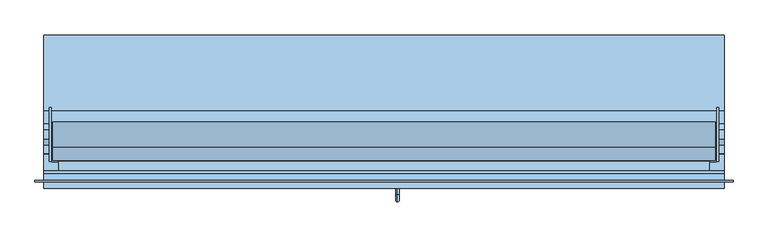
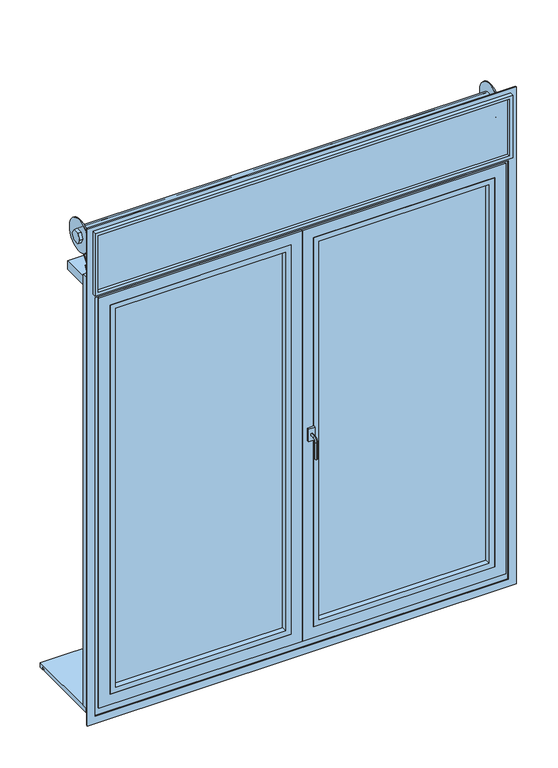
"""IFC4 building model written with IfcOpenShell, lengths in millimetres: window geometry, Ventana monoblock practicable, 2 hojas sin cajon para poner emparchado : CA-01. SALÓN."""

from ifc_helpers import new_model, si_unit, point, frame, frame_2d, origin, place, context, project, spatial, polyline, circle_curve, ellipse_curve, trimmed, segment, composite_curve, outline, extrude, faceted_brep, source, transform, mapped, element, save
from ifc_brep_helpers import plane_surface, cylinder_surface, revolved_surface, advanced_brep


def window_ea0ccc3b(model_context):
    return source(origin(), model_context, "Body", "SolidModel", [
        extrude(outline(polyline([(930.0, -120.0), (930.0, -135.0), (-930.0, -135.0), (-930.0, -120.0), (930.0, -120.0)])), frame((0.0, 0.0, 2945.0), z_axis=(0.0, 0.0, 1.0), x_axis=(1.0, 0.0, 0.0)), (0.0, 0.0, 1.0), 270.0),
        faceted_brep([(-945.0, -110.0, 3230.0), (-945.0, -150.0, 3230.0), (945.0, -150.0, 3230.0), (945.0, -110.0, 3230.0), (-915.0, -120.0, 3200.0), (-915.0, -110.0, 3200.0), (915.0, -110.0, 3200.0), (915.0, -120.0, 3200.0), (-930.0, -150.0, 3215.0), (-930.0, -120.0, 3215.0), (930.0, -120.0, 3215.0), (930.0, -150.0, 3215.0), (945.0, -150.0, 2930.0), (945.0, -110.0, 2930.0), (915.0, -110.0, 2960.0), (915.0, -120.0, 2960.0), (930.0, -120.0, 2945.0), (930.0, -150.0, 2945.0), (-945.0, -150.0, 2930.0), (-945.0, -110.0, 2930.0), (-915.0, -110.0, 2960.0), (-915.0, -120.0, 2960.0), (-930.0, -120.0, 2945.0), (-930.0, -150.0, 2945.0)], [[[0, 1, 2, 3]], [[4, 5, 6, 7]], [[8, 9, 10, 11]], [[3, 2, 12, 13]], [[7, 6, 14, 15]], [[11, 10, 16, 17]], [[13, 12, 18, 19]], [[15, 14, 20, 21]], [[17, 16, 22, 23]], [[19, 18, 1, 0]], [[3, 13, 19, 0], [5, 20, 14, 6]], [[21, 20, 5, 4]], [[9, 22, 16, 10], [7, 15, 21, 4]], [[23, 22, 9, 8]], [[1, 18, 12, 2], [11, 17, 23, 8]]]),
        advanced_brep(
        [(-945.0, -28.8675135, 3125.0), (-945.0, -14.4337567, 3150.0), (-945.0, 14.4337567, 3150.0), (-945.0, 28.8675135, 3125.0), (-945.0, 14.4337567, 3100.0), (-945.0, -14.4337567, 3100.0), (945.0, -28.8675135, 3125.0), (945.0, -14.4337567, 3100.0), (945.0, 14.4337567, 3100.0), (945.0, 28.8675135, 3125.0), (945.0, 14.4337567, 3150.0), (945.0, -14.4337567, 3150.0), (-930.0, -28.8675135, 3125.0), (-930.0, -14.4337567, 3150.0), (930.0, -14.4337567, 3150.0), (930.0, -28.8675135, 3125.0), (925.0, -28.8675135, 3125.0), (925.0, -14.4337567, 3150.0), (-925.0, -14.4337567, 3150.0), (-925.0, -28.8675135, 3125.0), (-930.0, 14.4337567, 3150.0), (930.0, 14.4337567, 3150.0), (925.0, 14.4337567, 3150.0), (-925.0, 14.4337567, 3150.0), (-930.0, 28.8675135, 3125.0), (930.0, 28.8675135, 3125.0), (925.0, 28.8675135, 3125.0), (-925.0, 28.8675135, 3125.0), (-930.0, 14.4337567, 3100.0), (930.0, 14.4337567, 3100.0), (925.0, 14.4337567, 3100.0), (-925.0, 14.4337567, 3100.0), (-930.0, -14.4337567, 3100.0), (930.0, -14.4337567, 3100.0), (925.0, -14.4337567, 3100.0), (-925.0, -14.4337567, 3100.0), (925.0, -75.0, 3125.0), (925.0, 75.0, 3125.0), (930.0, -75.0, 3125.0), (930.0, 75.0, 3125.0), (-930.0, -75.0, 3125.0), (-930.0, 75.0, 3125.0), (-925.0, -75.0, 3125.0), (-925.0, 75.0, 3125.0)],
        [
            (0, 1),
            (1, 2),
            (2, 3),
            (3, 4),
            (4, 5),
            (5, 0),
            (6, 7),
            (7, 8),
            (8, 9),
            (9, 10),
            (10, 11),
            (11, 6),
            (0, 12),
            (12, 13),
            (13, 1),
            (11, 14),
            (14, 15),
            (15, 6),
            (16, 17),
            (17, 18),
            (18, 19),
            (19, 16),
            (13, 20),
            (20, 2),
            (10, 21),
            (21, 14),
            (17, 22),
            (22, 23),
            (23, 18),
            (20, 24),
            (24, 3),
            (9, 25),
            (25, 21),
            (22, 26),
            (26, 27),
            (27, 23),
            (24, 28),
            (28, 4),
            (8, 29),
            (29, 25),
            (26, 30),
            (30, 31),
            (31, 27),
            (28, 32),
            (32, 5),
            (7, 33),
            (33, 29),
            (30, 34),
            (34, 35),
            (35, 31),
            (32, 12),
            (15, 33),
            (34, 16),
            (19, 35),
            (36, 37, circle_curve(frame((925.0, 0.0, 3125.0), z_axis=(-1.0, 0.0, 0.0), x_axis=(0.0, 1.0, 0.0)), 75.0)),
            (37, 36, circle_curve(frame((925.0, 0.0, 3125.0), z_axis=(-1.0, 0.0, 0.0), x_axis=(0.0, 1.0, 0.0)), 75.0)),
            (38, 39, circle_curve(frame((930.0, 0.0, 3125.0), z_axis=(1.0, 0.0, 0.0), x_axis=(0.0, 1.0, 0.0)), 75.0)),
            (39, 38, circle_curve(frame((930.0, 0.0, 3125.0), z_axis=(1.0, 0.0, 0.0), x_axis=(0.0, 1.0, 0.0)), 75.0)),
            (37, 39),
            (38, 36),
            (40, 41, circle_curve(frame((-930.0, 0.0, 3125.0), z_axis=(-1.0, 0.0, 0.0), x_axis=(0.0, 1.0, 0.0)), 75.0)),
            (41, 40, circle_curve(frame((-930.0, 0.0, 3125.0), z_axis=(-1.0, 0.0, 0.0), x_axis=(0.0, 1.0, 0.0)), 75.0)),
            (42, 43, circle_curve(frame((-925.0, 0.0, 3125.0), z_axis=(1.0, 0.0, 0.0), x_axis=(0.0, 1.0, 0.0)), 75.0)),
            (43, 42, circle_curve(frame((-925.0, 0.0, 3125.0), z_axis=(1.0, 0.0, 0.0), x_axis=(0.0, 1.0, 0.0)), 75.0)),
            (41, 43),
            (42, 40),
        ],
        [
            plane_surface(frame((-945.0, -28.8675135, 3125.0), z_axis=(-1.0, 0.0, 0.0), x_axis=(0.0, 0.49999999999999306, 0.8660254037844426))),
            plane_surface(frame((945.0, -28.8675135, 3125.0), z_axis=(1.0, 0.0, 0.0), x_axis=(0.0, -0.49999999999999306, -0.8660254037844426))),
            plane_surface(frame((-945.0, -28.8675135, 3125.0), z_axis=(0.0, -0.8660254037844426, 0.49999999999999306), x_axis=(1.0, 0.0, 0.0))),
            plane_surface(frame((-945.0, -14.4337567, 3150.0), z_axis=(0.0, 0.0, 1.0), x_axis=(1.0, 0.0, 0.0))),
            plane_surface(frame((-945.0, 14.4337567, 3150.0), z_axis=(0.0, 0.8660254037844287, 0.5000000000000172), x_axis=(1.0, 0.0, 0.0))),
            plane_surface(frame((-945.0, 28.8675135, 3125.0), z_axis=(0.0, 0.8660254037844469, -0.49999999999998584), x_axis=(1.0, 0.0, 0.0))),
            plane_surface(frame((-945.0, 14.4337567, 3100.0), z_axis=(0.0, 0.0, -1.0), x_axis=(1.0, 0.0, 0.0))),
            plane_surface(frame((-945.0, -14.4337567, 3100.0), z_axis=(0.0, -0.8660254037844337, -0.5000000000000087), x_axis=(1.0, 0.0, 0.0))),
            plane_surface(frame((925.0, 75.0, 3125.0), z_axis=(-1.0, 0.0, 0.0), x_axis=(0.0, 0.0, -1.0))),
            plane_surface(frame((930.0, 75.0, 3125.0), z_axis=(1.0, 0.0, 0.0), x_axis=(0.0, 0.0, 1.0))),
            cylinder_surface(frame((925.0, 0.0, 3125.0), z_axis=(1.0, 0.0, 0.0), x_axis=(0.0, 1.0, 0.0)), 75.0),
            plane_surface(frame((-930.0, 75.0, 3125.0), z_axis=(-1.0, 0.0, 0.0), x_axis=(0.0, 0.0, -1.0))),
            plane_surface(frame((-925.0, 75.0, 3125.0), z_axis=(1.0, 0.0, 0.0), x_axis=(0.0, 0.0, 1.0))),
            cylinder_surface(frame((-930.0, 0.0, 3125.0), z_axis=(1.0, 0.0, 0.0), x_axis=(0.0, 1.0, 0.0)), 75.0),
        ],
        [
            (0, [[1, 2, 3, 4, 5, 6]]),
            (1, [[7, 8, 9, 10, 11, 12]]),
            (2, [[-1, 13, 14, 15]]),
            (2, [[-12, 16, 17, 18]]),
            (2, [[19, 20, 21, 22]]),
            (3, [[-2, -15, 23, 24]]),
            (3, [[-11, 25, 26, -16]]),
            (3, [[27, 28, 29, -20]]),
            (4, [[-3, -24, 30, 31]]),
            (4, [[-10, 32, 33, -25]]),
            (4, [[34, 35, 36, -28]]),
            (5, [[-4, -31, 37, 38]]),
            (5, [[-9, 39, 40, -32]]),
            (5, [[41, 42, 43, -35]]),
            (6, [[-5, -38, 44, 45]]),
            (6, [[-8, 46, 47, -39]]),
            (6, [[48, 49, 50, -42]]),
            (7, [[-6, -45, 51, -13]]),
            (7, [[-7, -18, 52, -46]]),
            (7, [[53, -22, 54, -49]]),
            (8, [[55, 56], [-19, -53, -48, -41, -34, -27]]),
            (9, [[57, 58], [-17, -26, -33, -40, -47, -52]]),
            (10, [[-56, 59, -57, 60]]),
            (10, [[-55, -60, -58, -59]]),
            (11, [[61, 62], [-14, -51, -44, -37, -30, -23]]),
            (12, [[63, 64], [-21, -29, -36, -43, -50, -54]]),
            (13, [[-62, 65, -63, 66]]),
            (13, [[-61, -66, -64, -65]]),
        ],
    ),
        extrude(outline(composite_curve([segment(trimmed(circle_curve(frame_2d((0.0, 3125.0)), 29.0), [point((22.8709706, 3107.1697251))], [point((0.0, 3096.0))], True, "CARTESIAN"), True, "CONTINUOUS"), segment(polyline([(0.0, 3096.0), (0.0, 3090.0)]), True, "CONTINUOUS"), segment(trimmed(circle_curve(frame_2d((0.0, 3125.0)), 35.0), [point((0.0, 3090.0))], [point((27.6028956, 3103.4807027))], False, "CARTESIAN"), True, "CONTINUOUS"), segment(polyline([(27.6028956, 3103.4807027), (-66.0, 2983.4158643), (-66.0, 2630.0), (-72.0, 2630.0), (-72.0, 2985.4783214), (22.8709706, 3107.1697251)]), True, "CONTINUOUS")], self_intersect=False)), frame((-920.0, 0.0, 0.0), z_axis=(1.0, 0.0, 0.0), x_axis=(0.0, 1.0, 0.0)), (0.0, 0.0, 1.0), 1840.0),
        extrude(outline(polyline([(-945.0, -52.0), (-945.0, 65.0), (945.0, 65.0), (945.0, -52.0), (-945.0, -52.0)])), frame((0.0, 0.0, 2930.0), z_axis=(0.0, 0.0, 1.0), x_axis=(1.0, 0.0, 0.0)), (0.0, 0.0, 1.0), 40.0),
        extrude(outline(polyline([(905.0, -75.0), (905.0, -100.0), (-905.0, -100.0), (-905.0, -75.0), (905.0, -75.0)])), frame((0.0, 0.0, 2920.0), z_axis=(0.0, 0.0, 1.0), x_axis=(1.0, 0.0, 0.0)), (0.0, 0.0, 1.0), 10.0),
        faceted_brep([(-925.0, -77.0, 920.0), (-905.0, -77.0, 920.0), (-905.0, -100.0, 920.0), (-945.0, -100.0, 920.0), (-945.0, -56.0, 920.0), (-905.0, -56.0, 920.0), (-905.0, -61.0, 920.0), (-925.0, -61.0, 920.0), (-925.0, -77.0, 2980.0), (-905.0, -77.0, 2980.0), (-905.0, -100.0, 2980.0), (-945.0, -100.0, 2980.0), (-945.0, -56.0, 2980.0), (-925.0, -56.0, 2980.0), (-905.0, -56.0, 2980.0), (-905.0, -37.5521886, 3003.65752), (-905.0, -41.4951086, 3006.7321553), (-905.0, -61.0, 2981.7190332), (-925.0, -61.0, 2981.7190332), (-925.0, -61.0, 2980.0), (-925.0, -41.4951086, 3006.7321553), (-925.0, -37.5521886, 3003.65752)], [[[0, 1, 2, 3, 4, 5, 6, 7]], [[8, 9, 1, 0]], [[9, 10, 2, 1]], [[10, 11, 3, 2]], [[11, 12, 4, 3]], [[12, 13, 14, 5, 4]], [[6, 5, 14, 15, 16, 17]], [[7, 6, 17, 18, 19]], [[8, 0, 7, 19]], [[13, 12, 11, 10, 9, 8, 19]], [[18, 20, 21, 13, 19]], [[16, 15, 21, 20]], [[17, 16, 20, 18]], [[15, 14, 13, 21]]]),
        faceted_brep([(945.0, -56.0, 920.0), (945.0, -100.0, 920.0), (905.0, -100.0, 920.0), (905.0, -77.0, 920.0), (925.0, -77.0, 920.0), (925.0, -61.0, 920.0), (905.0, -61.0, 920.0), (905.0, -56.0, 920.0), (945.0, -56.0, 2980.0), (945.0, -100.0, 2980.0), (905.0, -100.0, 2980.0), (905.0, -77.0, 2980.0), (925.0, -77.0, 2980.0), (925.0, -61.0, 2980.0), (925.0, -61.0, 2981.7190332), (905.0, -61.0, 2981.7190332), (905.0, -41.4951086, 3006.7321553), (905.0, -37.5521886, 3003.65752), (905.0, -56.0, 2980.0), (925.0, -56.0, 2980.0), (925.0, -37.5521886, 3003.65752), (925.0, -41.4951086, 3006.7321553)], [[[0, 1, 2, 3, 4, 5, 6, 7]], [[8, 9, 1, 0]], [[9, 10, 2, 1]], [[10, 11, 3, 2]], [[11, 12, 4, 3]], [[4, 12, 13, 5]], [[6, 5, 13, 14, 15]], [[7, 6, 15, 16, 17, 18]], [[19, 8, 0, 7, 18]], [[12, 11, 10, 9, 8, 19, 13]], [[19, 20, 21, 14, 13]], [[21, 20, 17, 16]], [[14, 21, 16, 15]], [[20, 19, 18, 17]]]),
        advanced_brep(
        [(-763.0, -34.0, 2650.0), (-777.0, -34.0, 2650.0), (-760.5, -66.0, 2650.0), (-779.5, -66.0, 2650.0)],
        [
            (0, 1, circle_curve(frame((-770.0, -34.0, 2650.0), z_axis=(0.0, 1.0, 0.0), x_axis=(1.0, 0.0, 0.0)), 7.0)),
            (1, 0, circle_curve(frame((-770.0, -34.0, 2650.0), z_axis=(0.0, 1.0, 0.0), x_axis=(-1.0, 0.0, 0.0)), 7.0)),
            (2, 3, circle_curve(frame((-770.0, -66.0, 2650.0), z_axis=(0.0, -1.0, 0.0), x_axis=(-1.0, 0.0, 0.0)), 9.5)),
            (3, 2, circle_curve(frame((-770.0, -66.0, 2650.0), z_axis=(0.0, -1.0, 0.0), x_axis=(1.0, 0.0, 0.0)), 9.5)),
            (3, 1),
            (0, 2),
        ],
        [
            plane_surface(frame((-770.0, -34.0, 2650.0), z_axis=(0.0, 1.0, 0.0), x_axis=(0.0, 0.0, 1.0))),
            plane_surface(frame((-770.0, -66.0, 2650.0), z_axis=(0.0, -1.0, 0.0), x_axis=(0.0, 0.0, 1.0))),
            revolved_surface(polyline([(-763.0, -33.99999999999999, 2650.0), (-760.5, -66.0, 2650.0)]), (-770.0, 55.6, 2650.0), (0.0, -1.0, 0.0)),
            revolved_surface(polyline([(-777.0, -33.99999999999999, 2650.0), (-779.5, -66.0, 2650.0)]), (-770.0, 55.6, 2650.0), (0.0, -1.0, 0.0)),
        ],
        [
            (0, [[1, 2]]),
            (1, [[3, 4]]),
            (2, [[-4, 5, -1, 6]]),
            (3, [[-3, -6, -2, -5]]),
        ],
    ),
        advanced_brep(
        [(763.0, -34.0, 2650.0), (777.0, -34.0, 2650.0), (760.5, -66.0, 2650.0), (779.5, -66.0, 2650.0)],
        [
            (0, 1, circle_curve(frame((770.0, -34.0, 2650.0), z_axis=(0.0, 1.0, 0.0), x_axis=(-1.0, 0.0, 0.0)), 7.0)),
            (1, 0, circle_curve(frame((770.0, -34.0, 2650.0), z_axis=(0.0, 1.0, 0.0), x_axis=(1.0, 0.0, 0.0)), 7.0)),
            (2, 3, circle_curve(frame((770.0, -66.0, 2650.0), z_axis=(0.0, -1.0, 0.0), x_axis=(1.0, 0.0, 0.0)), 9.5)),
            (3, 2, circle_curve(frame((770.0, -66.0, 2650.0), z_axis=(0.0, -1.0, 0.0), x_axis=(-1.0, 0.0, 0.0)), 9.5)),
            (2, 0),
            (1, 3),
        ],
        [
            plane_surface(frame((770.0, -34.0, 2650.0), z_axis=(0.0, 1.0, 0.0), x_axis=(0.0, 0.0, -1.0))),
            plane_surface(frame((770.0, -66.0, 2650.0), z_axis=(0.0, -1.0, 0.0), x_axis=(0.0, 0.0, -1.0))),
            revolved_surface(polyline([(777.0, -33.99999999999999, 2650.0), (779.5, -66.0, 2650.0)]), (770.0, 55.6, 2650.0), (0.0, -1.0, 0.0)),
            revolved_surface(polyline([(763.0, -33.99999999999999, 2650.0), (760.5, -66.0, 2650.0)]), (770.0, 55.6, 2650.0), (0.0, -1.0, 0.0)),
        ],
        [
            (0, [[1, 2]]),
            (1, [[3, 4]]),
            (2, [[-3, 5, -2, 6]]),
            (3, [[-4, -6, -1, -5]]),
        ],
    ),
        extrude(outline(polyline([(277.5, 920.0), (277.5, 900.0), (257.5, 900.0), (257.5, 910.0), (247.5, 910.0), (247.5, 900.0), (-77.5, 900.0), (-77.5, 920.0), (277.5, 920.0)])), frame((-945.0, 0.0, 0.0), z_axis=(1.0, 0.0, 0.0), x_axis=(0.0, 1.0, 0.0)), (0.0, 0.0, 1.0), 1890.0),
        advanced_brep(
        [(37.5, -147.5, 1930.0), (37.5, -166.5, 1930.0), (37.5, -166.5, 1920.0), (37.5, -147.5, 1920.0), (37.5, -187.5, 1909.0), (37.5, -177.5, 1909.0), (37.5, -187.5, 1830.0), (37.5, -177.5, 1830.0), (52.5, -147.5, 1955.0), (22.5, -147.5, 1955.0), (22.5, -147.5, 1895.0), (52.5, -147.5, 1895.0), (52.5, -137.5, 1955.0), (52.5, -137.5, 1895.0), (22.5, -137.5, 1895.0), (22.5, -137.5, 1955.0)],
        [
            (0, 1),
            (1, 2, circle_curve(frame((37.5, -166.5, 1925.0), z_axis=(0.0, 1.0, 0.0), x_axis=(0.0, 0.0, -1.0)), 5.0)),
            (2, 3),
            (3, 0, circle_curve(frame((37.5, -147.5, 1925.0), z_axis=(0.0, -1.0, 0.0), x_axis=(0.0, 0.0, -1.0)), 5.0)),
            (0, 3, circle_curve(frame((37.5, -147.5, 1925.0), z_axis=(0.0, -1.0, 0.0), x_axis=(0.0, 0.0, -1.0)), 5.0)),
            (2, 1, circle_curve(frame((37.5, -166.5, 1925.0), z_axis=(0.0, 1.0, 0.0), x_axis=(0.0, 0.0, -1.0)), 5.0)),
            (1, 4, circle_curve(frame((37.5, -166.5, 1909.0), z_axis=(1.0, 0.0, 0.0), x_axis=(0.0, 0.0, 1.0)), 21.0)),
            (4, 5, circle_curve(frame((37.5, -182.5, 1909.0), z_axis=(0.0, 0.0, 1.0), x_axis=(0.0, 1.0, 0.0)), 5.0)),
            (5, 2, circle_curve(frame((37.5, -166.5, 1909.0), z_axis=(-1.0, 0.0, 0.0), x_axis=(0.0, 0.0, 1.0)), 11.0)),
            (5, 4, circle_curve(frame((37.5, -182.5, 1909.0), z_axis=(0.0, 0.0, 1.0), x_axis=(0.0, 1.0, 0.0)), 5.0)),
            (6, 7, circle_curve(frame((37.5, -182.5, 1830.0), z_axis=(0.0, 0.0, -1.0), x_axis=(0.0, 1.0, 0.0)), 5.0)),
            (7, 6, circle_curve(frame((37.5, -182.5, 1830.0), z_axis=(0.0, 0.0, -1.0), x_axis=(0.0, 1.0, 0.0)), 5.0)),
            (4, 6),
            (7, 5),
            (8, 9),
            (9, 10),
            (10, 11),
            (11, 8),
            (12, 13),
            (13, 14),
            (14, 15),
            (15, 12),
            (8, 12),
            (15, 9),
            (14, 10),
            (13, 11),
        ],
        [
            cylinder_surface(frame((37.5, -147.5, 1925.0), z_axis=(0.0, 1.0, 0.0), x_axis=(0.0, 0.0, -1.0)), 5.0),
            revolved_surface(trimmed(ellipse_curve(frame((37.5, -166.5, 1925.0), z_axis=(0.0, 1.0, 0.0), x_axis=(0.0, 0.0, -1.0)), 5.0, 5.0), [point((37.5, -166.5, 1930.0))], [point((37.5, -166.5, 1920.0))], True, "CARTESIAN"), (37.5, -166.5, 1909.0), (1.0, 0.0, 0.0)),
            revolved_surface(trimmed(ellipse_curve(frame((37.5, -166.5, 1925.0), z_axis=(0.0, 1.0, 0.0), x_axis=(0.0, 0.0, -1.0)), 5.0, 5.0), [point((37.5, -166.5, 1920.0))], [point((37.5, -166.5, 1930.0))], True, "CARTESIAN"), (37.5, -166.5, 1909.0), (1.0, 0.0, 0.0)),
            plane_surface(frame((37.5, -182.5, 1830.0), z_axis=(0.0, 0.0, -1.0), x_axis=(1.0, 0.0, 0.0))),
            cylinder_surface(frame((37.5, -182.5, 1909.0), z_axis=(0.0, 0.0, 1.0), x_axis=(0.0, 1.0, 0.0)), 5.0),
            plane_surface(frame((22.5, -147.5, 1955.0), z_axis=(0.0, -1.0, 0.0), x_axis=(-1.0, 0.0, 0.0))),
            plane_surface(frame((22.5, -137.5, 1955.0), z_axis=(0.0, 1.0, 0.0), x_axis=(1.0, 0.0, 0.0))),
            plane_surface(frame((52.5, -147.5, 1955.0), z_axis=(0.0, 0.0, 1.0), x_axis=(0.0, 1.0, 0.0))),
            plane_surface(frame((22.5, -147.5, 1955.0), z_axis=(-1.0, 0.0, 0.0), x_axis=(0.0, 1.0, 0.0))),
            plane_surface(frame((22.5, -147.5, 1895.0), z_axis=(0.0, 0.0, -1.0), x_axis=(0.0, 1.0, 0.0))),
            plane_surface(frame((52.5, -147.5, 1895.0), z_axis=(1.0, 0.0, 0.0), x_axis=(0.0, 1.0, 0.0))),
        ],
        [
            (0, [[1, 2, 3, 4]]),
            (0, [[-1, 5, -3, 6]]),
            (1, [[-2, 7, 8, 9]]),
            (2, [[-6, -9, 10, -7]]),
            (3, [[11, 12]]),
            (4, [[-8, 13, -12, 14]]),
            (4, [[-10, -14, -11, -13]]),
            (5, [[15, 16, 17, 18], [-4, -5]]),
            (6, [[19, 20, 21, 22]]),
            (7, [[-15, 23, -22, 24]]),
            (8, [[-16, -24, -21, 25]]),
            (9, [[-17, -25, -20, 26]]),
            (10, [[-18, -26, -19, -23]]),
        ],
    ),
        faceted_brep([(945.0, -77.5, 2930.0), (945.0, -127.5, 2930.0), (945.0, -127.5, 900.0), (945.0, -77.5, 900.0), (-945.0, -127.5, 2930.0), (-945.0, -127.5, 900.0), (910.0, -127.5, 2895.0), (910.0, -127.5, 955.0), (-910.0, -127.5, 955.0), (-910.0, -127.5, 2895.0), (-945.0, -77.5, 900.0), (-945.0, -77.5, 2930.0), (885.0, -77.5, 980.0), (885.0, -77.5, 2870.0), (-885.0, -77.5, 2870.0), (-885.0, -77.5, 980.0), (885.0, -87.5, 2870.0), (885.0, -87.5, 980.0), (-885.0, -87.5, 980.0), (910.0, -87.5, 955.0), (910.0, -87.5, 2895.0), (-910.0, -87.5, 2895.0), (-910.0, -87.5, 955.0), (-885.0, -87.5, 2870.0)], [[[0, 1, 2, 3]], [[2, 1, 4, 5], [6, 7, 8, 9]], [[3, 2, 5, 10]], [[0, 3, 10, 11], [12, 13, 14, 15]], [[16, 13, 12, 17]], [[17, 12, 15, 18]], [[19, 20, 21, 22], [16, 17, 18, 23]], [[6, 20, 19, 7]], [[7, 19, 22, 8]], [[18, 15, 14, 23]], [[8, 22, 21, 9]], [[4, 11, 10, 5]], [[1, 0, 11, 4]], [[13, 16, 23, 14]], [[20, 6, 9, 21]]]),
        faceted_brep([(-25.0, -87.5, 980.0), (-35.0, -87.5, 980.0), (-35.0, -77.5, 980.0), (35.0, -77.5, 980.0), (35.0, -87.5, 980.0), (10.0, -87.5, 980.0), (-25.0, -87.5, 2870.0), (-35.0, -87.5, 2870.0), (-35.0, -77.5, 2870.0), (35.0, -77.5, 2870.0), (35.0, -87.5, 2870.0), (10.0, -87.5, 2870.0), (10.0, -87.5, 955.0), (-25.0, -87.5, 955.0), (-62.5, -87.5, 2870.0), (-62.5, -87.5, 2895.0), (10.0, -87.5, 2895.0), (-35.0, -87.5, 2870.0), (-25.0, -127.5, 955.0), (-25.0, -127.5, 2870.0), (10.0, -127.5, 2895.0), (-62.5, -127.5, 2895.0), (-62.5, -127.5, 2870.0), (10.0, -127.5, 955.0)], [[[0, 1, 2, 3, 4, 5]], [[1, 0, 6, 7]], [[2, 1, 7, 8]], [[3, 2, 8, 9]], [[4, 3, 9, 10]], [[5, 4, 10, 11]], [[5, 12, 13, 0]], [[14, 15, 16, 11, 6, 17]], [[18, 19, 6, 0, 13]], [[20, 21, 22, 19, 18, 23]], [[23, 18, 13, 12]], [[20, 23, 12, 5, 11, 16]], [[11, 10, 9, 8, 7, 6]], [[21, 20, 16, 15]], [[22, 21, 15, 14]], [[22, 14, 17, 6, 19]]]),
        extrude(outline(polyline([(-60.0, -97.5), (-60.0, -111.5), (-860.0, -111.5), (-860.0, -97.5), (-60.0, -97.5)])), frame((0.0, 0.0, 1005.0), z_axis=(0.0, 0.0, 1.0), x_axis=(1.0, 0.0, 0.0)), (0.0, 0.0, 1.0), 1840.0),
        extrude(outline(polyline([(860.0, -97.5), (860.0, -111.5), (60.0, -111.5), (60.0, -97.5), (860.0, -97.5)])), frame((0.0, 0.0, 1005.0), z_axis=(0.0, 0.0, 1.0), x_axis=(1.0, 0.0, 0.0)), (0.0, 0.0, 1.0), 1840.0),
        faceted_brep([(-75.0, -97.5, 2830.0), (-75.0, -87.5, 2830.0), (-75.0, -87.5, 1020.0), (-75.0, -97.5, 1020.0), (-25.0, -87.5, 2880.0), (-25.0, -87.5, 970.0), (-895.0, -87.5, 970.0), (-895.0, -87.5, 2880.0), (-845.0, -87.5, 2830.0), (-845.0, -87.5, 1020.0), (-845.0, -97.5, 1020.0), (-870.0, -97.5, 2855.0), (-870.0, -97.5, 995.0), (-50.0, -97.5, 995.0), (-50.0, -97.5, 2855.0), (-845.0, -97.5, 2830.0), (-50.0, -137.5, 2855.0), (-50.0, -137.5, 995.0), (-870.0, -137.5, 995.0), (-920.0, -137.5, 2905.0), (-920.0, -137.5, 945.0), (0.0, -137.5, 945.0), (0.0, -137.5, 2905.0), (-870.0, -137.5, 2855.0), (0.0, -127.5, 2905.0), (0.0, -127.5, 945.0), (-920.0, -127.5, 945.0), (-920.0, -127.5, 2905.0), (-895.0, -127.5, 2880.0), (-895.0, -127.5, 970.0), (-25.0, -127.5, 970.0), (-25.0, -127.5, 2880.0)], [[[0, 1, 2, 3]], [[4, 5, 6, 7], [8, 9, 2, 1]], [[3, 2, 9, 10]], [[11, 12, 13, 14], [0, 3, 10, 15]], [[16, 14, 13, 17]], [[17, 13, 12, 18]], [[19, 20, 21, 22], [16, 17, 18, 23]], [[24, 22, 21, 25]], [[25, 21, 20, 26]], [[24, 25, 26, 27], [28, 29, 30, 31]], [[4, 31, 30, 5]], [[5, 30, 29, 6]], [[10, 9, 8, 15]], [[18, 12, 11, 23]], [[26, 20, 19, 27]], [[6, 29, 28, 7]], [[15, 8, 1, 0]], [[23, 11, 14, 16]], [[27, 19, 22, 24]], [[7, 28, 31, 4]]]),
        extrude(outline(polyline([(2855.0, -870.0), (995.0, -870.0), (995.0, -50.0), (2855.0, -50.0), (2855.0, -870.0)]), holes=[polyline([(2830.0, -75.0), (1020.0, -75.0), (1020.0, -845.0), (2830.0, -845.0), (2830.0, -75.0)])]), frame((0.0, -137.5, 0.0), z_axis=(0.0, 1.0, 0.0), x_axis=(0.0, 0.0, 1.0)), (0.0, 0.0, 1.0), 26.0),
        extrude(outline(polyline([(2855.0, 50.0), (995.0, 50.0), (995.0, 870.0), (2855.0, 870.0), (2855.0, 50.0)]), holes=[polyline([(2830.0, 845.0), (1020.0, 845.0), (1020.0, 75.0), (2830.0, 75.0), (2830.0, 845.0)])]), frame((0.0, -137.5, 0.0), z_axis=(0.0, 1.0, 0.0), x_axis=(0.0, 0.0, 1.0)), (0.0, 0.0, 1.0), 26.0),
        faceted_brep([(25.0, -127.5, 2880.0), (25.0, -87.5, 2880.0), (25.0, -87.5, 970.0), (25.0, -127.5, 970.0), (895.0, -87.5, 2880.0), (895.0, -87.5, 970.0), (75.0, -87.5, 2830.0), (75.0, -87.5, 1020.0), (845.0, -87.5, 1020.0), (845.0, -87.5, 2830.0), (895.0, -127.5, 970.0), (920.0, -127.5, 2905.0), (920.0, -127.5, 945.0), (0.0, -127.5, 945.0), (0.0, -127.5, 2905.0), (895.0, -127.5, 2880.0), (0.0, -137.5, 2905.0), (0.0, -137.5, 945.0), (920.0, -137.5, 945.0), (920.0, -137.5, 2905.0), (870.0, -137.5, 2855.0), (870.0, -137.5, 995.0), (50.0, -137.5, 995.0), (50.0, -137.5, 2855.0), (75.0, -97.5, 2830.0), (75.0, -97.5, 1020.0), (50.0, -97.5, 2855.0), (50.0, -97.5, 995.0), (870.0, -97.5, 995.0), (870.0, -97.5, 2855.0), (845.0, -97.5, 2830.0), (845.0, -97.5, 1020.0)], [[[0, 1, 2, 3]], [[4, 5, 2, 1], [6, 7, 8, 9]], [[3, 2, 5, 10]], [[11, 12, 13, 14], [0, 3, 10, 15]], [[16, 14, 13, 17]], [[17, 13, 12, 18]], [[16, 17, 18, 19], [20, 21, 22, 23]], [[6, 24, 25, 7]], [[26, 27, 28, 29], [30, 31, 25, 24]], [[7, 25, 31, 8]], [[10, 5, 4, 15]], [[18, 12, 11, 19]], [[8, 31, 30, 9]], [[28, 21, 20, 29]], [[27, 22, 21, 28]], [[26, 23, 22, 27]], [[15, 4, 1, 0]], [[19, 11, 14, 16]], [[9, 30, 24, 6]], [[29, 20, 23, 26]]]),
        extrude(outline(polyline([(3250.0, 970.0), (3250.0, -970.0), (875.0, -970.0), (875.0, 970.0), (3250.0, 970.0)]), holes=[polyline([(910.0, -935.0), (2910.0, -935.0), (2910.0, 935.0), (910.0, 935.0), (910.0, -935.0)]), polyline([(3215.0, -935.0), (3215.0, 935.0), (2945.0, 935.0), (2945.0, -935.0), (3215.0, -935.0)])]), frame((0.0, -132.5, 0.0), z_axis=(0.0, 1.0, 0.0), x_axis=(0.0, 0.0, 1.0)), (0.0, 0.0, 1.0), 5.0),
    ])


if __name__ == "__main__":
    model = new_model("IFC4")
    model_context = context("Model", 3, world=origin())
    ifc_project = project(units=[si_unit("LENGTHUNIT", "METRE", prefix="MILLI")], contexts=[model_context])
    site = spatial("IfcSite", under=ifc_project)
    building = spatial("IfcBuilding", under=site)
    placement = place(None, origin())
    window_shape = window_ea0ccc3b(model_context)
    element("IfcWindow", 1, ObjectType="Ventana monoblock practicable, 2 hojas sin cajon para poner emparchado : CA-01. SALÓN", at=placement, inside=building, context=model_context, shape_type="MappedRepresentation", body=[
        mapped(window_shape, transform((0.0, 0.0, 0.0), x_axis=(1.0, 0.0, 0.0), y_axis=(0.0, 1.0, 0.0), z_axis=(0.0, 0.0, 1.0))),
    ])
    save(model, "model.ifc")
